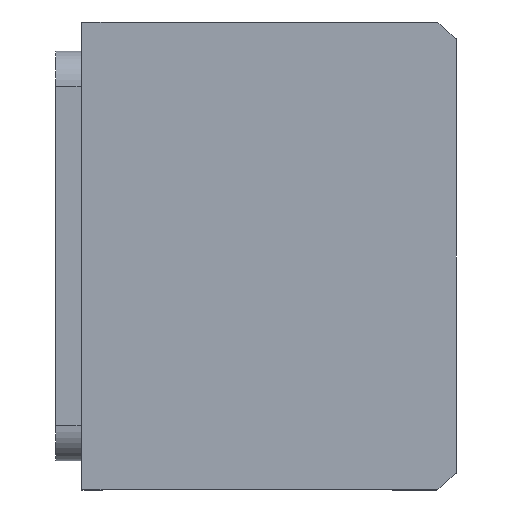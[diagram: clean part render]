
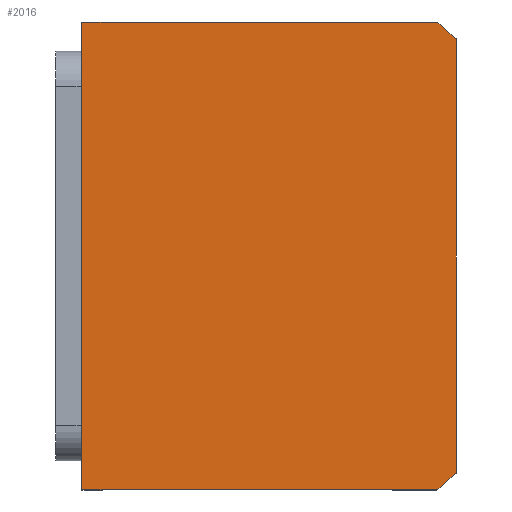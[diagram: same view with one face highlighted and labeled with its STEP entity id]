
A CAD part, front view. The second image highlights one B-rep face of the part: STEP entity #2016.
In plain terms, the highlighted planar face has unit normal (0, -1, 0) as drawn and (0, 0, -1) by its records, which use the part's own axes.
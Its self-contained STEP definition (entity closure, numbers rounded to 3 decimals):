
#527 = CARTESIAN_POINT ( 'NONE',  ( -40., 32., 0. ) ) ;
#1223 = CARTESIAN_POINT ( 'NONE',  ( 40., -28.639, 0. ) ) ;
#1521 = AXIS2_PLACEMENT_3D ( 'NONE', #6247, #7788, #7820 ) ;
#1534 = VERTEX_POINT ( 'NONE', #1223 ) ;
#1666 = EDGE_CURVE ( 'NONE', #7229, #8219, #6379, .T. ) ;
#1927 = AXIS2_PLACEMENT_3D ( 'NONE', #3564, #9092, #4379 ) ;
#2016 = ADVANCED_FACE ( 'NONE', ( #3474 ), #3759, .F. ) ;
#2041 = VERTEX_POINT ( 'NONE', #4572 ) ;
#2223 = CARTESIAN_POINT ( 'NONE',  ( 40., 32., 0. ) ) ;
#2335 = CARTESIAN_POINT ( 'NONE',  ( -40., -28.639, 0. ) ) ;
#2362 = EDGE_CURVE ( 'NONE', #8219, #5380, #5005, .T. ) ;
#2620 = CIRCLE ( 'NONE', #1927, 51. ) ;
#2749 = CARTESIAN_POINT ( 'NONE',  ( -40., 32., 0. ) ) ;
#3174 = LINE ( 'NONE', #6912, #8981 ) ;
#3474 = FACE_OUTER_BOUND ( 'NONE', #7954, .T. ) ;
#3564 = CARTESIAN_POINT ( 'NONE',  ( 0., 3., 0. ) ) ;
#3656 = DIRECTION ( 'NONE',  ( 0., 0., 1. ) ) ;
#3759 = PLANE ( 'NONE',  #10031 ) ;
#3821 = DIRECTION ( 'NONE',  ( 1., 0., 0. ) ) ;
#4027 = ORIENTED_EDGE ( 'NONE', *, *, #8388, .F. ) ;
#4061 = EDGE_CURVE ( 'NONE', #1534, #2041, #7226, .T. ) ;
#4379 = DIRECTION ( 'NONE',  ( 1., 0., 0. ) ) ;
#4516 = DIRECTION ( 'NONE',  ( -1., 0., 0. ) ) ;
#4572 = CARTESIAN_POINT ( 'NONE',  ( 40., 32., 0. ) ) ;
#4679 = DIRECTION ( 'NONE',  ( 0., 1., 0. ) ) ;
#4743 = EDGE_CURVE ( 'NONE', #9595, #7229, #6325, .T. ) ;
#4789 = ORIENTED_EDGE ( 'NONE', *, *, #4885, .F. ) ;
#4837 = CARTESIAN_POINT ( 'NONE',  ( -37.094, -32., 0. ) ) ;
#4856 = VECTOR ( 'NONE', #4679, 1000. ) ;
#4885 = EDGE_CURVE ( 'NONE', #2041, #9595, #3174, .T. ) ;
#5005 = LINE ( 'NONE', #5263, #7135 ) ;
#5186 = DIRECTION ( 'NONE',  ( 0., -1., 0. ) ) ;
#5263 = CARTESIAN_POINT ( 'NONE',  ( -40., -32., 0. ) ) ;
#5380 = VERTEX_POINT ( 'NONE', #6916 ) ;
#5648 = CARTESIAN_POINT ( 'NONE',  ( 0., 0., 0. ) ) ;
#6061 = DIRECTION ( 'NONE',  ( 1., 0., 0. ) ) ;
#6062 = VECTOR ( 'NONE', #5186, 1000. ) ;
#6238 = ORIENTED_EDGE ( 'NONE', *, *, #1666, .F. ) ;
#6247 = CARTESIAN_POINT ( 'NONE',  ( 0., 3., 0. ) ) ;
#6325 = LINE ( 'NONE', #2749, #6062 ) ;
#6379 = CIRCLE ( 'NONE', #1521, 51. ) ;
#6912 = CARTESIAN_POINT ( 'NONE',  ( -40., 32., 0. ) ) ;
#6916 = CARTESIAN_POINT ( 'NONE',  ( 37.094, -32., 0. ) ) ;
#7135 = VECTOR ( 'NONE', #6061, 1000. ) ;
#7226 = LINE ( 'NONE', #2223, #4856 ) ;
#7229 = VERTEX_POINT ( 'NONE', #2335 ) ;
#7788 = DIRECTION ( 'NONE',  ( 0., 0., 1. ) ) ;
#7820 = DIRECTION ( 'NONE',  ( 1., 0., 0. ) ) ;
#7954 = EDGE_LOOP ( 'NONE', ( #6238, #9945, #4789, #8632, #4027, #10091 ) ) ;
#8219 = VERTEX_POINT ( 'NONE', #4837 ) ;
#8388 = EDGE_CURVE ( 'NONE', #5380, #1534, #2620, .T. ) ;
#8632 = ORIENTED_EDGE ( 'NONE', *, *, #4061, .F. ) ;
#8981 = VECTOR ( 'NONE', #4516, 1000. ) ;
#9092 = DIRECTION ( 'NONE',  ( 0., 0., 1. ) ) ;
#9595 = VERTEX_POINT ( 'NONE', #527 ) ;
#9945 = ORIENTED_EDGE ( 'NONE', *, *, #4743, .F. ) ;
#10031 = AXIS2_PLACEMENT_3D ( 'NONE', #5648, #3656, #3821 ) ;
#10091 = ORIENTED_EDGE ( 'NONE', *, *, #2362, .F. ) ;
